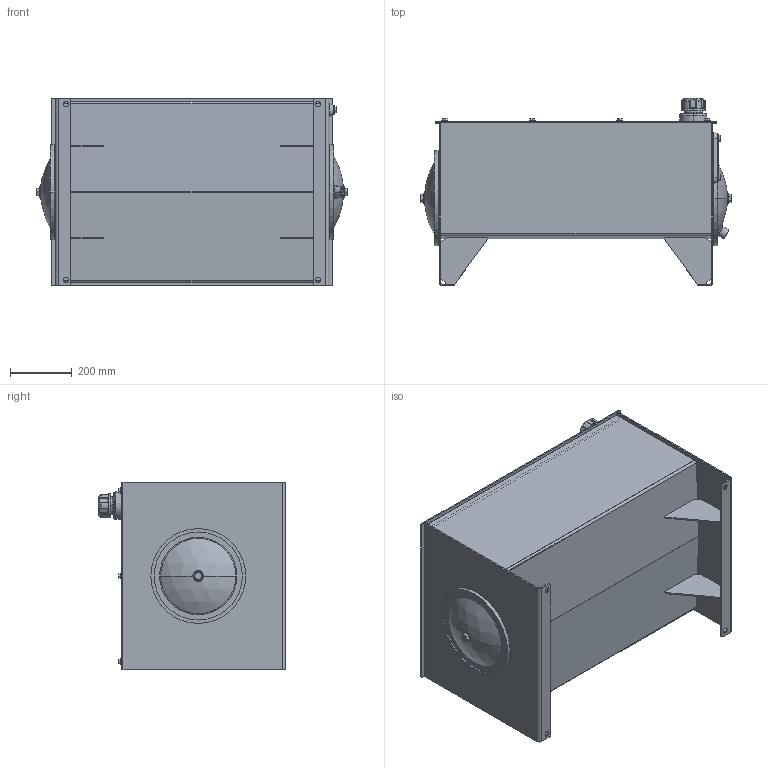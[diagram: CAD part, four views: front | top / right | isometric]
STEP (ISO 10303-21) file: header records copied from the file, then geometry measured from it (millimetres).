
FILE_DESCRIPTION (( 'STEP AP203' ), '1' );
FILE_NAME ('RJIC040-RT.STEP', '2015-01-08T15:46:45', ( '' ), ( '' ), 'SwSTEP 2.0', 'SolidWorks 2014', '' );
FILE_SCHEMA (( 'CONFIG_CONTROL_DESIGN' ));
Length unit declared in the file: inch
Products named in the file (1): RJIC040-RT
Bounding box: 1010.19 x 608.69 x 609.6 mm (x, y, z)
Volume: 12029379.9 mm3; surface area: 6268051.4 mm2
Topology: 48 solids, 48 shells, 1071 faces, 2449 edges, 1497 vertices
Faces by surface type: plane 396, cylinder 368, torus 120, cone 104, bspline 51, sphere 32
Entity records: 33242 total; most frequent: CARTESIAN_POINT 8472, DIRECTION 5484, ORIENTED_EDGE 4874, EDGE_CURVE 2437, AXIS2_PLACEMENT_3D 2179, VERTEX_POINT 1497, EDGE_LOOP 1240, CIRCLE 1158
